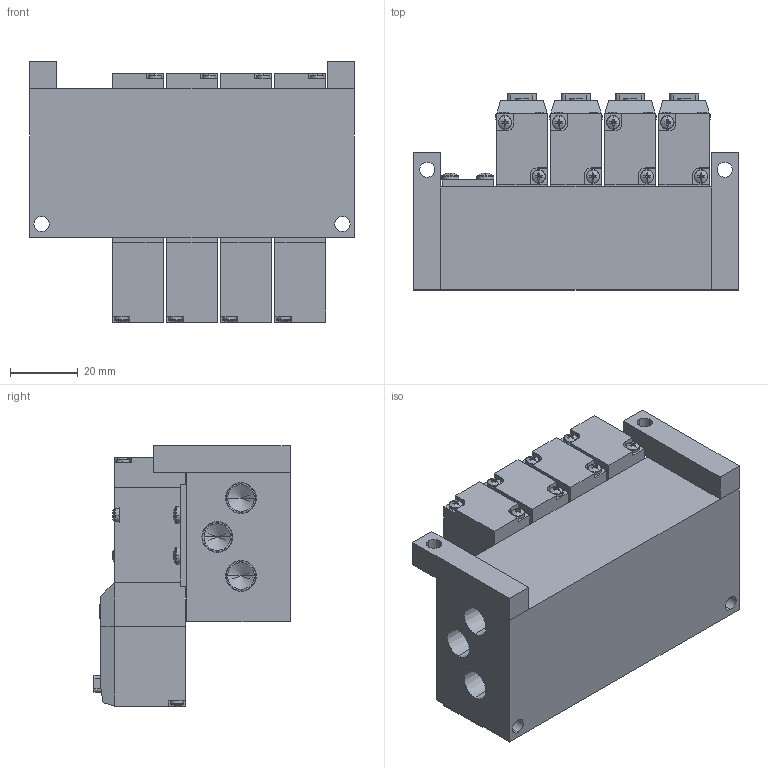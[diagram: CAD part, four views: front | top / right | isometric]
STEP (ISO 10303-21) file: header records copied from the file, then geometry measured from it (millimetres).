
FILE_DESCRIPTION (( 'STEP AP203' ), '1' );
FILE_NAME ('MFS#-PC5-01-B-U.STEP', '2016-02-04T03:25:49', ( 'Sam Lin' ), ( '' ), 'SwSTEP 2.0', 'SolidWorks 2013', '' );
FILE_SCHEMA (( 'CONFIG_CONTROL_DESIGN' ));
Length unit declared in the file: metre
Products named in the file (11): ISO 7045 - M2.5 x 25; PC5-2; ISO 7045 - M2 x 10; PC5-4; PC5-5; PC5-3-U; PC-MARK; MFS#-PC5-01-B-U; PC5-6; MFS-01-B; MFS-02
Assembly tree (52 placements, depth 2):
  MFS#-PC5-01-B-U
    MFS-01-B
    MFS-02
    ISO 7045 - M2.5 x 25  x10
    PC5-2  x4
    ISO 7045 - M2 x 10  x16
    PC5-5  x4
    PC-MARK  x4
    PC5-6  x4
    PC5-4  x4
    PC5-3-U  x4
Bounding box: 96 x 58 x 77.07 mm (x, y, z)
Volume: 221441.2 mm3; surface area: 67997.8 mm2
Topology: 78 solids, 78 shells, 2014 faces, 4931 edges, 3053 vertices
Faces by surface type: plane 1112, cylinder 376, cone 338, bspline 188
Entity records: 15083 total; most frequent: CARTESIAN_POINT 2745, DIRECTION 2162, ORIENTED_EDGE 1998, EDGE_CURVE 999, AXIS2_PLACEMENT_3D 794, VERTEX_POINT 647, VECTOR 574, LINE 574
